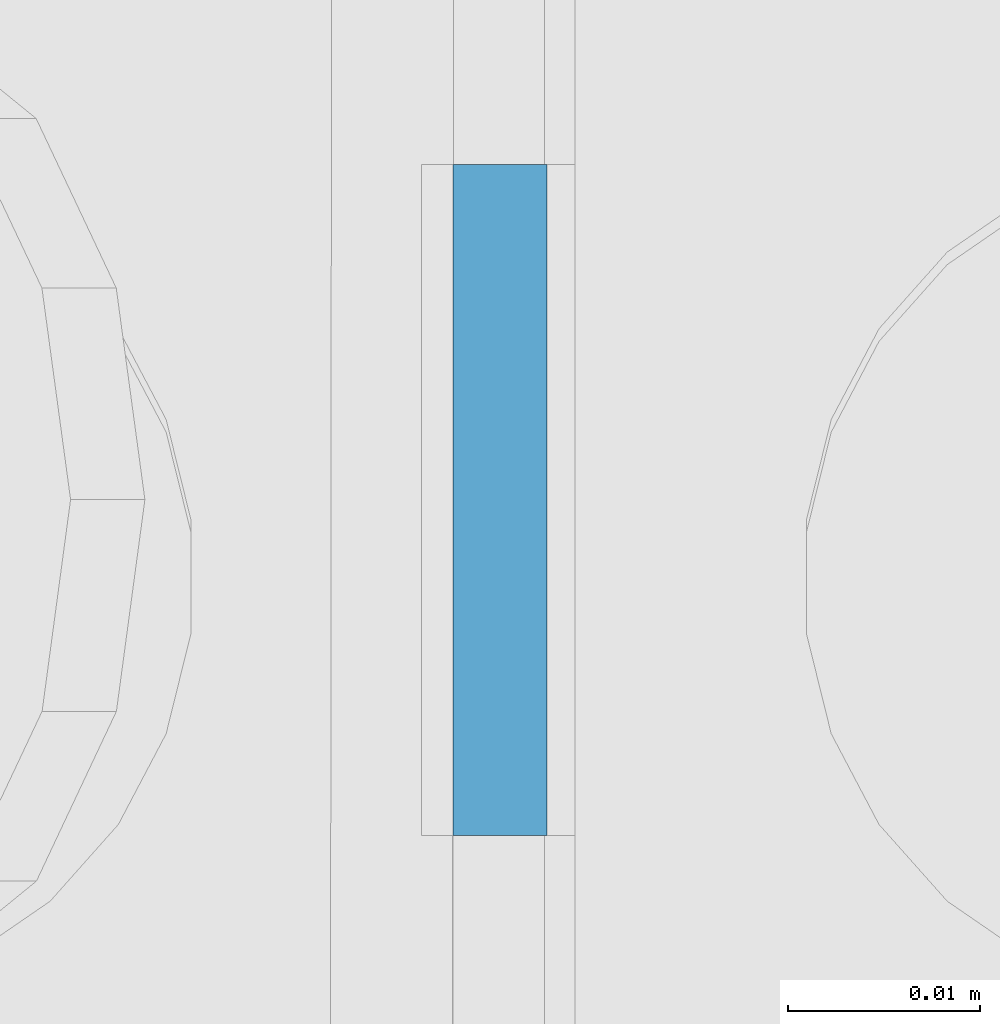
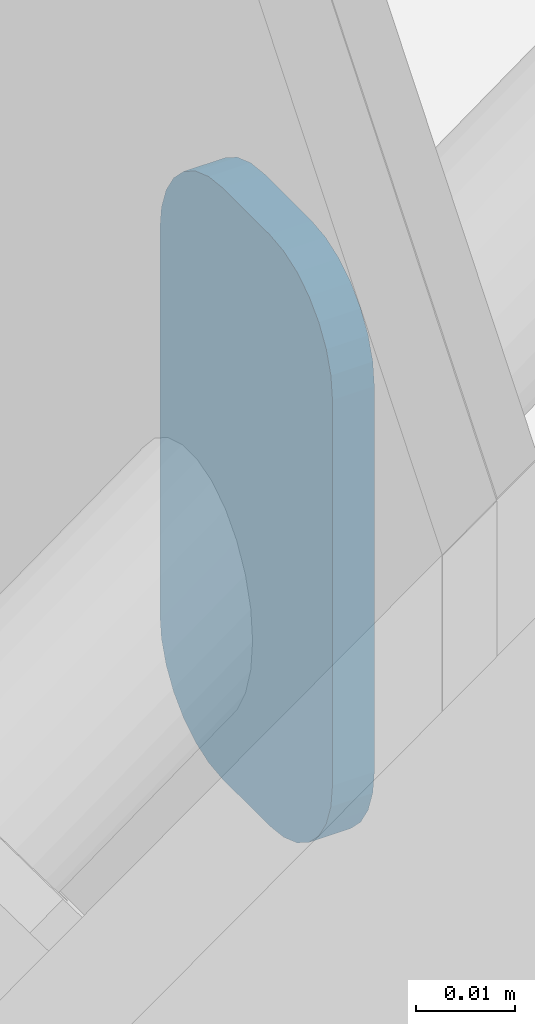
# One storey, part 121 of 185: 1 mechanical fastener, 1 element without a shape of its own.
"""IFC2X3 building model written with IfcOpenShell, lengths in millimetres."""

from ifc_helpers import new_model, si_unit, frame, frame_2d, origin_with_axes, place, context, subcontext, project, spatial, polyline, circle_curve, parameter, trimmed, segment, composite_curve, outline, extrude, source, transform, mapped, material, type_object, element, aggregate, save


model = new_model("IFC2X3")

# Units and contexts
model_context = context("Model", 3, precision=1e-05, world=origin_with_axes())
body_context = subcontext(model_context, "Body", "Model", "MODEL_VIEW")
ifc_project = project(units=[si_unit("LENGTHUNIT", "METRE", prefix="MILLI"), si_unit("AREAUNIT", "SQUARE_METRE"), si_unit("VOLUMEUNIT", "CUBIC_METRE"), si_unit("MASSUNIT", "GRAM", prefix="KILO"), si_unit("TIMEUNIT", "SECOND"), si_unit("PLANEANGLEUNIT", "RADIAN"), si_unit("SOLIDANGLEUNIT", "STERADIAN"), si_unit("THERMODYNAMICTEMPERATUREUNIT", "DEGREE_CELSIUS"), si_unit("LUMINOUSINTENSITYUNIT", "LUMEN")], contexts=[model_context])

# Site, building, storey
site_placement = place(None, origin_with_axes())
site = spatial("IfcSite", under=ifc_project, at=site_placement, Name="Undefined", CompositionType="ELEMENT")
building_placement = place(site_placement, origin_with_axes())
building = spatial("IfcBuilding", under=site, at=building_placement, Name="Undefined", CompositionType="ELEMENT")
storey_placement = place(building_placement, origin_with_axes())
storey = spatial("IfcBuildingStorey", under=building, at=storey_placement, Name="Undefined", CompositionType="ELEMENT", Elevation=0.0)

# Assembly, mechanical fastener
assembly_placement = place(storey_placement, origin_with_axes())
assembly = element("IfcElementAssembly", 1, at=assembly_placement, inside=storey, Name="Steel Assembly", AssemblyPlace="NOTDEFINED", PredefinedType="RIGID_FRAME")
ifc_material = material(Name="Undefined")
discrete_accessory_type = type_object("IfcDiscreteAccessoryType", Name="Bolt assembly")
shared_shape = source(origin_with_axes(), body_context, "Body", "SweptSolid", [
    extrude(outline(composite_curve([segment(polyline([(-23.8125, 17.4624996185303), (23.8125, 17.4624996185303)]), True, "CONTINUOUS"), segment(trimmed(circle_curve(frame_2d((23.8125, 4.76249980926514), x_axis=(0.0, 1.0)), 12.7), [parameter(0.0)], [parameter(4.71238898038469)], False, "PARAMETER"), True, "CONTINUOUS"), segment(polyline([(36.5124998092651, 4.76249980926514), (36.5124998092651, -4.76249980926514)]), True, "CONTINUOUS"), segment(trimmed(circle_curve(frame_2d((23.8125, -4.76249980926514), x_axis=(1.0, 0.0)), 12.7), [parameter(0.0)], [parameter(4.71238898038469)], False, "PARAMETER"), True, "CONTINUOUS"), segment(polyline([(23.8125, -17.4624996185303), (-23.8125, -17.4624996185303)]), True, "CONTINUOUS"), segment(trimmed(circle_curve(frame_2d((-23.8125, -4.76249980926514), x_axis=(0.0, -1.0)), 12.7), [parameter(0.0)], [parameter(4.71238898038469)], False, "PARAMETER"), True, "CONTINUOUS"), segment(polyline([(-36.5124998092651, -4.76249980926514), (-36.5124998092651, 4.76249980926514)]), True, "CONTINUOUS"), segment(trimmed(circle_curve(frame_2d((-23.8125, 4.76249980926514), x_axis=(-1.0, 0.0)), 12.7), [parameter(0.0)], [parameter(4.71238898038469)], False, "PARAMETER"), True, "DISCONTINUOUS")], self_intersect=False)), frame((0.0, -2.38125000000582, 0.0), z_axis=(0.0, 1.0, 0.0), x_axis=(1.0, 0.0, 0.0)), (0.0, 0.0, 1.0), 4.9),
])
mechanical_fastener_placement = place(assembly_placement, frame((7239.0, 363.474000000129, 168.275050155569), z_axis=(0.0, 1.0, 0.0), x_axis=(0.0, 0.0, 1.0)))
mechanical_fastener = element("IfcMechanicalFastener", 2, at=mechanical_fastener_placement, type_object=discrete_accessory_type, material=ifc_material, Name="Bolt assembly", NominalDiameter=25.3999996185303, NominalLength=31.75, context=body_context, shape_type="MappedRepresentation", body=[
    mapped(shared_shape, transform((0.0, 0.0, 0.0))),
])
aggregate(assembly, [mechanical_fastener])

save(model, "model.ifc")
